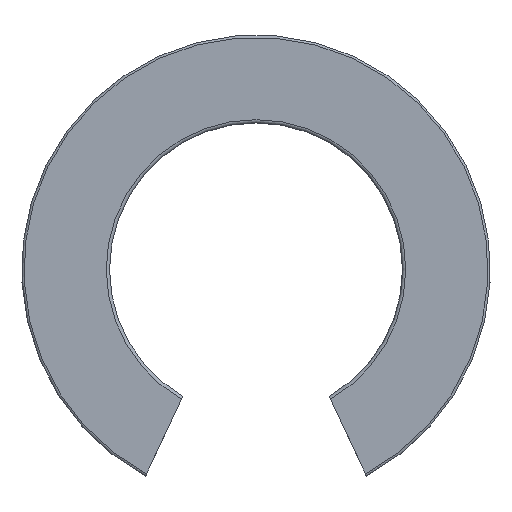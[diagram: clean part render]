
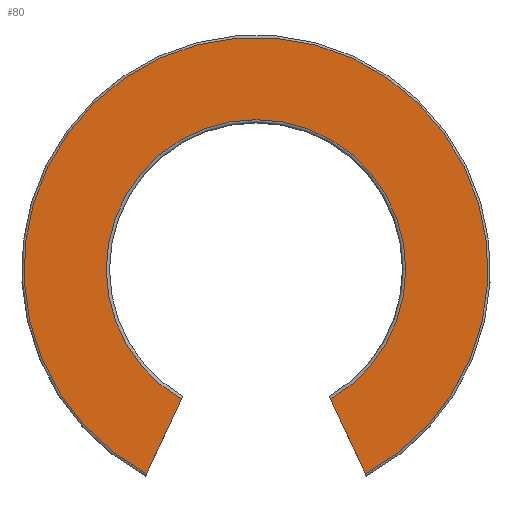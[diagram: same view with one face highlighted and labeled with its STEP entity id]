
A CAD part, left-side view. The second image highlights one B-rep face of the part: STEP entity #80.
In plain terms, the highlighted planar face has unit normal (-1, 0, 0).
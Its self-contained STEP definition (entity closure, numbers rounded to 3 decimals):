
#80=ADVANCED_FACE('',(#112),#113,.F.);
#112=FACE_OUTER_BOUND('',#164,.T.);
#113=PLANE('',#165);
#164=EDGE_LOOP('',(#261,#262,#263,#264));
#165=AXIS2_PLACEMENT_3D('',#265,#266,#267);
#261=ORIENTED_EDGE('',*,*,#428,.F.);
#262=ORIENTED_EDGE('',*,*,#454,.F.);
#263=ORIENTED_EDGE('',*,*,#462,.F.);
#264=ORIENTED_EDGE('',*,*,#463,.T.);
#265=CARTESIAN_POINT('',(0.0,39.619,0.0));
#266=DIRECTION('',(1.0,0.0,0.0));
#267=DIRECTION('',(0.0,0.0,-1.0));
#428=EDGE_CURVE('',#500,#501,#502,.T.);
#454=EDGE_CURVE('',#550,#500,#552,.T.);
#462=EDGE_CURVE('',#564,#550,#565,.T.);
#463=EDGE_CURVE('',#564,#501,#566,.T.);
#500=VERTEX_POINT('',#620);
#501=VERTEX_POINT('',#621);
#502=LINE('',#622,#623);
#550=VERTEX_POINT('',#710);
#552=CIRCLE('',#717,25.558);
#564=VERTEX_POINT('',#740);
#565=LINE('',#741,#742);
#566=CIRCLE('',#743,39.619);
#620=CARTESIAN_POINT('',(0.0,12.737,-22.158));
#621=CARTESIAN_POINT('',(0.0,18.693,-34.932));
#622=CARTESIAN_POINT('',(0.0,9.051,-14.254));
#623=VECTOR('',#820,1.0);
#710=CARTESIAN_POINT('',(0.0,-12.737,-22.158));
#717=AXIS2_PLACEMENT_3D('',#843,#844,#845);
#740=CARTESIAN_POINT('',(0.0,-18.693,-34.932));
#741=CARTESIAN_POINT('',(0.0,5.101,16.096));
#742=VECTOR('',#859,1.0);
#743=AXIS2_PLACEMENT_3D('',#860,#861,#862);
#820=DIRECTION('',(0.0,0.423,-0.906));
#843=CARTESIAN_POINT('',(0.0,0.0,0.0));
#844=DIRECTION('',(-1.0,0.0,0.0));
#845=DIRECTION('',(0.0,0.0,1.0));
#859=DIRECTION('',(0.0,0.423,0.906));
#860=CARTESIAN_POINT('',(0.0,0.0,0.0));
#861=DIRECTION('',(-1.0,0.0,0.0));
#862=DIRECTION('',(0.0,0.0,1.0));
